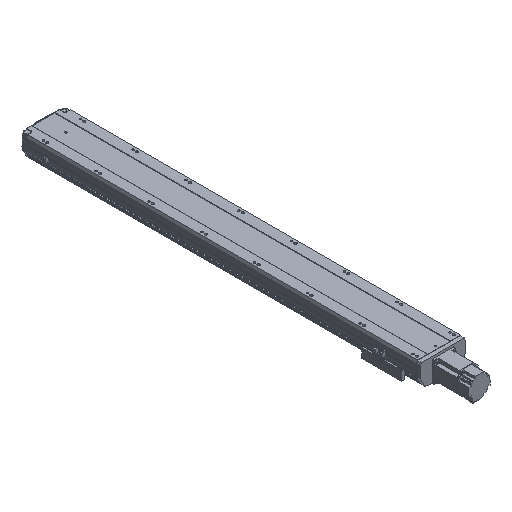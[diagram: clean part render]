
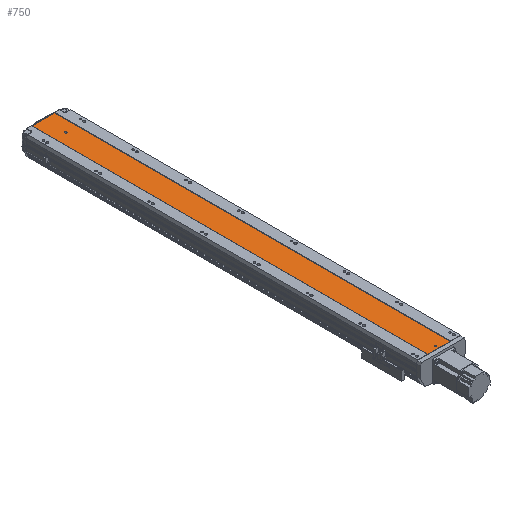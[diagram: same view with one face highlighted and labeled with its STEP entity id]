
A CAD part, isometric view. The second image highlights one B-rep face of the part: STEP entity #750.
In plain terms, the highlighted planar face has unit normal (0, 0, 1).
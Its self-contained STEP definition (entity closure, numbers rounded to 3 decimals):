
#166 = VERTEX_POINT ( 'NONE', #20338 ) ;
#183 = VERTEX_POINT ( 'NONE', #3338 ) ;
#750 = ADVANCED_FACE ( 'NONE', ( #47351, #32383, #37621 ), #36199, .F. ) ;
#1069 = EDGE_CURVE ( 'NONE', #22124, #29153, #45440, .T. ) ;
#1367 = ORIENTED_EDGE ( 'NONE', *, *, #41729, .F. ) ;
#1734 = VECTOR ( 'NONE', #13902, 1000. ) ;
#2556 = VECTOR ( 'NONE', #7044, 1000. ) ;
#3338 = CARTESIAN_POINT ( 'NONE',  ( -3., 13.5, 44. ) ) ;
#3673 = DIRECTION ( 'NONE',  ( 0., 0., 1. ) ) ;
#3883 = LINE ( 'NONE', #44721, #2556 ) ;
#3991 = ORIENTED_EDGE ( 'NONE', *, *, #28014, .F. ) ;
#4048 = ORIENTED_EDGE ( 'NONE', *, *, #10885, .F. ) ;
#7044 = DIRECTION ( 'NONE',  ( 1., 0., 0. ) ) ;
#7739 = VECTOR ( 'NONE', #21632, 1000. ) ;
#9156 = LINE ( 'NONE', #29523, #19451 ) ;
#9210 = DIRECTION ( 'NONE',  ( 0., 1., 0. ) ) ;
#10826 = CARTESIAN_POINT ( 'NONE',  ( -42., 1500., 44. ) ) ;
#10885 = EDGE_CURVE ( 'NONE', #20766, #42766, #35578, .T. ) ;
#11761 = EDGE_CURVE ( 'NONE', #183, #29121, #47866, .T. ) ;
#11986 = CARTESIAN_POINT ( 'NONE',  ( 3., 1414.5, 44. ) ) ;
#12028 = VECTOR ( 'NONE', #31130, 1000. ) ;
#12847 = EDGE_CURVE ( 'NONE', #166, #28360, #23127, .T. ) ;
#13409 = CARTESIAN_POINT ( 'NONE',  ( -42., 1500., 44. ) ) ;
#13902 = DIRECTION ( 'NONE',  ( 0., -1., 0. ) ) ;
#14129 = ORIENTED_EDGE ( 'NONE', *, *, #34444, .T. ) ;
#14236 = VERTEX_POINT ( 'NONE', #14682 ) ;
#14630 = CARTESIAN_POINT ( 'NONE',  ( -3., 1414.5, 44. ) ) ;
#14682 = CARTESIAN_POINT ( 'NONE',  ( -3., 1414.5, 44. ) ) ;
#14968 = DIRECTION ( 'NONE',  ( -1., 0., 0. ) ) ;
#19451 = VECTOR ( 'NONE', #37532, 1000. ) ;
#19773 = CARTESIAN_POINT ( 'NONE',  ( -3., 1412.5, 44. ) ) ;
#20338 = CARTESIAN_POINT ( 'NONE',  ( -42., 1500., 44. ) ) ;
#20766 = VERTEX_POINT ( 'NONE', #36059 ) ;
#21130 = DIRECTION ( 'NONE',  ( 1., 0., 0. ) ) ;
#21302 = CARTESIAN_POINT ( 'NONE',  ( 0., 1412.5, 44. ) ) ;
#21610 = CIRCLE ( 'NONE', #31715, 3. ) ;
#21632 = DIRECTION ( 'NONE',  ( 0., -1., 0. ) ) ;
#21996 = AXIS2_PLACEMENT_3D ( 'NONE', #46697, #46859, #51004 ) ;
#22124 = VERTEX_POINT ( 'NONE', #19773 ) ;
#23127 = LINE ( 'NONE', #13409, #1734 ) ;
#23210 = ORIENTED_EDGE ( 'NONE', *, *, #12847, .T. ) ;
#23716 = DIRECTION ( 'NONE',  ( 1., 0., 0. ) ) ;
#23882 = ORIENTED_EDGE ( 'NONE', *, *, #50538, .F. ) ;
#24107 = DIRECTION ( 'NONE',  ( 1., 0., 0. ) ) ;
#24330 = LINE ( 'NONE', #14630, #12028 ) ;
#26352 = CARTESIAN_POINT ( 'NONE',  ( 3., 1414.5, 44. ) ) ;
#28014 = EDGE_CURVE ( 'NONE', #29121, #183, #21610, .T. ) ;
#28130 = ORIENTED_EDGE ( 'NONE', *, *, #35259, .F. ) ;
#28360 = VERTEX_POINT ( 'NONE', #47273 ) ;
#29121 = VERTEX_POINT ( 'NONE', #38274 ) ;
#29153 = VERTEX_POINT ( 'NONE', #42472 ) ;
#29324 = VERTEX_POINT ( 'NONE', #11986 ) ;
#29523 = CARTESIAN_POINT ( 'NONE',  ( -42., 1500., 44. ) ) ;
#30151 = CARTESIAN_POINT ( 'NONE',  ( 42., 1500., 44. ) ) ;
#31130 = DIRECTION ( 'NONE',  ( 0., -1., 0. ) ) ;
#31715 = AXIS2_PLACEMENT_3D ( 'NONE', #48972, #3673, #24107 ) ;
#31948 = LINE ( 'NONE', #26352, #35192 ) ;
#32383 = FACE_BOUND ( 'NONE', #32764, .T. ) ;
#32764 = EDGE_LOOP ( 'NONE', ( #1367, #23882, #28130, #49770 ) ) ;
#33628 = DIRECTION ( 'NONE',  ( 0., 0., 1. ) ) ;
#34444 = EDGE_CURVE ( 'NONE', #28360, #42766, #3883, .T. ) ;
#35192 = VECTOR ( 'NONE', #9210, 1000. ) ;
#35259 = EDGE_CURVE ( 'NONE', #29153, #29324, #31948, .T. ) ;
#35512 = ORIENTED_EDGE ( 'NONE', *, *, #11761, .F. ) ;
#35578 = LINE ( 'NONE', #30151, #7739 ) ;
#36059 = CARTESIAN_POINT ( 'NONE',  ( 42., 1500., 44. ) ) ;
#36199 = PLANE ( 'NONE',  #41554 ) ;
#36375 = DIRECTION ( 'NONE',  ( 0., 0., -1. ) ) ;
#37532 = DIRECTION ( 'NONE',  ( 1., 0., 0. ) ) ;
#37621 = FACE_OUTER_BOUND ( 'NONE', #40032, .T. ) ;
#38274 = CARTESIAN_POINT ( 'NONE',  ( 3., 13.5, 44. ) ) ;
#40032 = EDGE_LOOP ( 'NONE', ( #14129, #4048, #49427, #23210 ) ) ;
#41362 = CIRCLE ( 'NONE', #50202, 3. ) ;
#41554 = AXIS2_PLACEMENT_3D ( 'NONE', #10826, #36375, #14968 ) ;
#41729 = EDGE_CURVE ( 'NONE', #14236, #22124, #24330, .T. ) ;
#42472 = CARTESIAN_POINT ( 'NONE',  ( 3., 1412.5, 44. ) ) ;
#42766 = VERTEX_POINT ( 'NONE', #43087 ) ;
#43087 = CARTESIAN_POINT ( 'NONE',  ( 42., 0., 44. ) ) ;
#44420 = CARTESIAN_POINT ( 'NONE',  ( 0., 1414.5, 44. ) ) ;
#44721 = CARTESIAN_POINT ( 'NONE',  ( -42., 0., 44. ) ) ;
#45440 = CIRCLE ( 'NONE', #45792, 3. ) ;
#45792 = AXIS2_PLACEMENT_3D ( 'NONE', #21302, #33628, #21130 ) ;
#46586 = EDGE_CURVE ( 'NONE', #166, #20766, #9156, .T. ) ;
#46697 = CARTESIAN_POINT ( 'NONE',  ( 0., 13.5, 44. ) ) ;
#46859 = DIRECTION ( 'NONE',  ( 0., 0., 1. ) ) ;
#47273 = CARTESIAN_POINT ( 'NONE',  ( -42., 0., 44. ) ) ;
#47351 = FACE_BOUND ( 'NONE', #48547, .T. ) ;
#47866 = CIRCLE ( 'NONE', #21996, 3. ) ;
#48547 = EDGE_LOOP ( 'NONE', ( #3991, #35512 ) ) ;
#48578 = DIRECTION ( 'NONE',  ( 0., 0., 1. ) ) ;
#48972 = CARTESIAN_POINT ( 'NONE',  ( 0., 13.5, 44. ) ) ;
#49427 = ORIENTED_EDGE ( 'NONE', *, *, #46586, .F. ) ;
#49770 = ORIENTED_EDGE ( 'NONE', *, *, #1069, .F. ) ;
#50202 = AXIS2_PLACEMENT_3D ( 'NONE', #44420, #48578, #23716 ) ;
#50538 = EDGE_CURVE ( 'NONE', #29324, #14236, #41362, .T. ) ;
#51004 = DIRECTION ( 'NONE',  ( 1., 0., 0. ) ) ;
